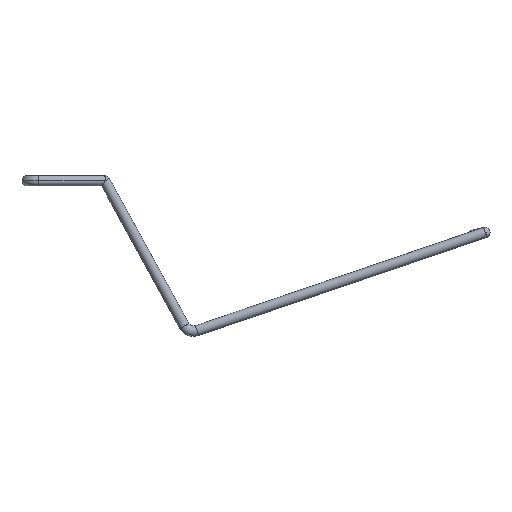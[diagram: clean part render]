
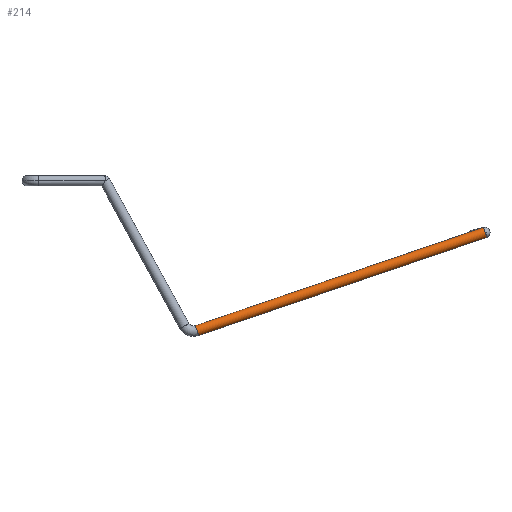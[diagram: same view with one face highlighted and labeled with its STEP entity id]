
A CAD part, left-side view. The second image highlights one B-rep face of the part: STEP entity #214.
In plain terms, the highlighted cylindrical face has radius 0.4 mm (diameter 0.8 mm), a partial arc.
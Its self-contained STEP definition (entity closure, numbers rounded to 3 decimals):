
#23 = CARTESIAN_POINT ( 'NONE',  ( -7.405, -37.046, -3.626 ) ) ;
#45 = CIRCLE ( 'NONE', #949, 0.4 ) ;
#49 = ORIENTED_EDGE ( 'NONE', *, *, #1042, .T. ) ;
#51 = CARTESIAN_POINT ( 'NONE',  ( -7.404, -37.317, -4.379 ) ) ;
#58 =( BOUNDED_CURVE ( )  B_SPLINE_CURVE ( 3, ( #706, #312, #973, #1060 ),
 .UNSPECIFIED., .F., .T. ) 
 B_SPLINE_CURVE_WITH_KNOTS ( ( 4, 4 ),
 ( 1.571, 1.599 ),
 .UNSPECIFIED. ) 
 CURVE ( )  GEOMETRIC_REPRESENTATION_ITEM ( )  RATIONAL_B_SPLINE_CURVE ( ( 1., 1., 1., 1. ) ) 
 REPRESENTATION_ITEM ( '' )  );
#86 = EDGE_CURVE ( 'NONE', #381, #396, #58, .T. ) ;
#92 = ORIENTED_EDGE ( 'NONE', *, *, #741, .T. ) ;
#113 = CARTESIAN_POINT ( 'NONE',  ( -9.364, -14.779, -11.206 ) ) ;
#129 = CIRCLE ( 'NONE', #731, 0.4 ) ;
#156 = DIRECTION ( 'NONE',  ( -0.083, 0.943, -0.321 ) ) ;
#214 = ADVANCED_FACE ( 'NONE', ( #721 ), #1202, .T. ) ;
#247 = DIRECTION ( 'NONE',  ( 0.104, -0.312, -0.944 ) ) ;
#264 = LINE ( 'NONE', #816, #1162 ) ;
#266 = DIRECTION ( 'NONE',  ( 0., -0.322, -0.947 ) ) ;
#312 = CARTESIAN_POINT ( 'NONE',  ( -7.412, -37.055, -3.623 ) ) ;
#327 = CARTESIAN_POINT ( 'NONE',  ( -9.353, -14.907, -11.585 ) ) ;
#329 = DIRECTION ( 'NONE',  ( 0.083, -0.943, 0.321 ) ) ;
#339 = ORIENTED_EDGE ( 'NONE', *, *, #86, .T. ) ;
#355 = DIRECTION ( 'NONE',  ( -0.083, 0.943, -0.321 ) ) ;
#381 = VERTEX_POINT ( 'NONE', #386 ) ;
#386 = CARTESIAN_POINT ( 'NONE',  ( -7.415, -37.06, -3.621 ) ) ;
#396 = VERTEX_POINT ( 'NONE', #23 ) ;
#411 = VERTEX_POINT ( 'NONE', #850 ) ;
#436 = VERTEX_POINT ( 'NONE', #745 ) ;
#453 = AXIS2_PLACEMENT_3D ( 'NONE', #1176, #329, #266 ) ;
#496 = DIRECTION ( 'NONE',  ( -0.083, 0.943, -0.321 ) ) ;
#552 = LINE ( 'NONE', #917, #634 ) ;
#564 = VERTEX_POINT ( 'NONE', #51 ) ;
#627 = DIRECTION ( 'NONE',  ( 0.083, -0.943, 0.321 ) ) ;
#629 = EDGE_CURVE ( 'NONE', #1195, #436, #903, .T. ) ;
#634 = VECTOR ( 'NONE', #627, 1000. ) ;
#692 = ORIENTED_EDGE ( 'NONE', *, *, #919, .F. ) ;
#694 = AXIS2_PLACEMENT_3D ( 'NONE', #327, #355, #247 ) ;
#700 = DIRECTION ( 'NONE',  ( 0.104, -0.312, -0.944 ) ) ;
#706 = CARTESIAN_POINT ( 'NONE',  ( -7.415, -37.06, -3.621 ) ) ;
#721 = FACE_OUTER_BOUND ( 'NONE', #1092, .T. ) ;
#731 = AXIS2_PLACEMENT_3D ( 'NONE', #1002, #156, #1196 ) ;
#741 = EDGE_CURVE ( 'NONE', #411, #564, #264, .T. ) ;
#745 = CARTESIAN_POINT ( 'NONE',  ( -9.353, -14.778, -11.206 ) ) ;
#746 = EDGE_CURVE ( 'NONE', #436, #396, #552, .T. ) ;
#761 = CARTESIAN_POINT ( 'NONE',  ( -9.353, -14.907, -11.585 ) ) ;
#793 = ORIENTED_EDGE ( 'NONE', *, *, #629, .F. ) ;
#816 = CARTESIAN_POINT ( 'NONE',  ( -9.353, -15.036, -11.964 ) ) ;
#850 = CARTESIAN_POINT ( 'NONE',  ( -9.353, -15.036, -11.964 ) ) ;
#903 = CIRCLE ( 'NONE', #694, 0.4 ) ;
#917 = CARTESIAN_POINT ( 'NONE',  ( -9.353, -14.778, -11.206 ) ) ;
#919 = EDGE_CURVE ( 'NONE', #411, #1195, #45, .T. ) ;
#949 = AXIS2_PLACEMENT_3D ( 'NONE', #761, #496, #700 ) ;
#973 = CARTESIAN_POINT ( 'NONE',  ( -7.408, -37.051, -3.624 ) ) ;
#1000 = ORIENTED_EDGE ( 'NONE', *, *, #746, .F. ) ;
#1002 = CARTESIAN_POINT ( 'NONE',  ( -7.404, -37.188, -4. ) ) ;
#1042 = EDGE_CURVE ( 'NONE', #564, #381, #129, .T. ) ;
#1060 = CARTESIAN_POINT ( 'NONE',  ( -7.405, -37.046, -3.626 ) ) ;
#1092 = EDGE_LOOP ( 'NONE', ( #1000, #793, #692, #92, #49, #339 ) ) ;
#1162 = VECTOR ( 'NONE', #1192, 1000. ) ;
#1176 = CARTESIAN_POINT ( 'NONE',  ( -9.353, -14.907, -11.585 ) ) ;
#1192 = DIRECTION ( 'NONE',  ( 0.083, -0.943, 0.321 ) ) ;
#1195 = VERTEX_POINT ( 'NONE', #113 ) ;
#1196 = DIRECTION ( 'NONE',  ( 0.104, -0.312, -0.944 ) ) ;
#1202 = CYLINDRICAL_SURFACE ( 'NONE', #453, 0.4 ) ;
